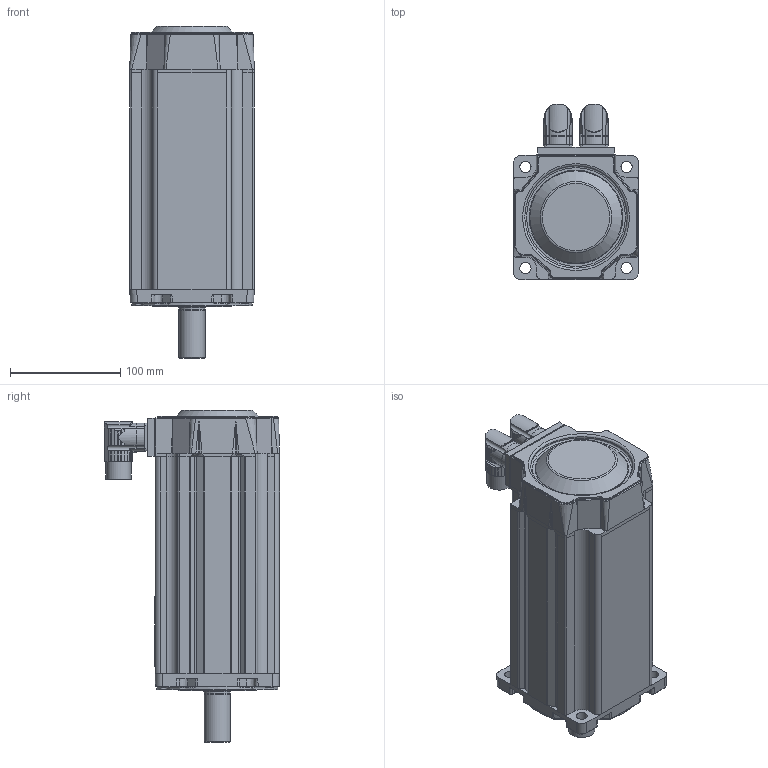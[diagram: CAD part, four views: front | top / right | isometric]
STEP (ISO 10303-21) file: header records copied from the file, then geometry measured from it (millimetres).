
FILE_DESCRIPTION((''),'2;1');
FILE_NAME('C:\Documents and Settings\jevans\My Documents\Engineering Projects\MPJ\MPJ1153XXX_NPSB.stp','2007-05-02T10:27:31',('jevans'),(''),'Autodesk Inventor 11','Autodesk Inventor 11','');
FILE_SCHEMA(('AUTOMOTIVE_DESIGN { 1 0 10303 214 1 1 1 1 }'));
Length unit declared in the file: inch
Products named in the file (3): MPJ1153XXX_NPSB; MPP115_MOTOR_1; MPP115_MOTOR_2
Assembly tree (2 placements, depth 2):
  MPJ1153XXX_NPSB
    MPP115_MOTOR_1
    MPP115_MOTOR_2
Bounding box: 113.03 x 159.03 x 301.7 mm (x, y, z)
Volume: 2747789.1 mm3; surface area: 188160.2 mm2
Topology: 2 solids, 2 shells, 1012 faces, 2580 edges, 1622 vertices
Faces by surface type: cylinder 441, plane 307, bspline 158, cone 86, torus 18, sphere 2
Full cylindrical faces by diameter (mm): 0.178 x1, 1.143 x17, 2.032 x6, 2.794 x2, 6.35 x8, 6.655 x1, 10.185 x4, 19.05 x2, 19.685 x2, 22.86 x2, 23.647 x1, 24.003 x1, 24.994 x2, 31.75 x1, 47.549 x1, 54.61 x1, 61.468 x1, 62.001 x1, 62.027 x1, 62.268 x1, 65.634 x1, 69.85 x1, 71.12 x1, 93.066 x1, 109.995 x1
Entity records: 38507 total; most frequent: CARTESIAN_POINT 15086, ORIENTED_EDGE 4942, DIRECTION 4675, EDGE_CURVE 2471, AXIS2_PLACEMENT_3D 1811, VERTEX_POINT 1598, EDGE_LOOP 1163, VECTOR 1053
